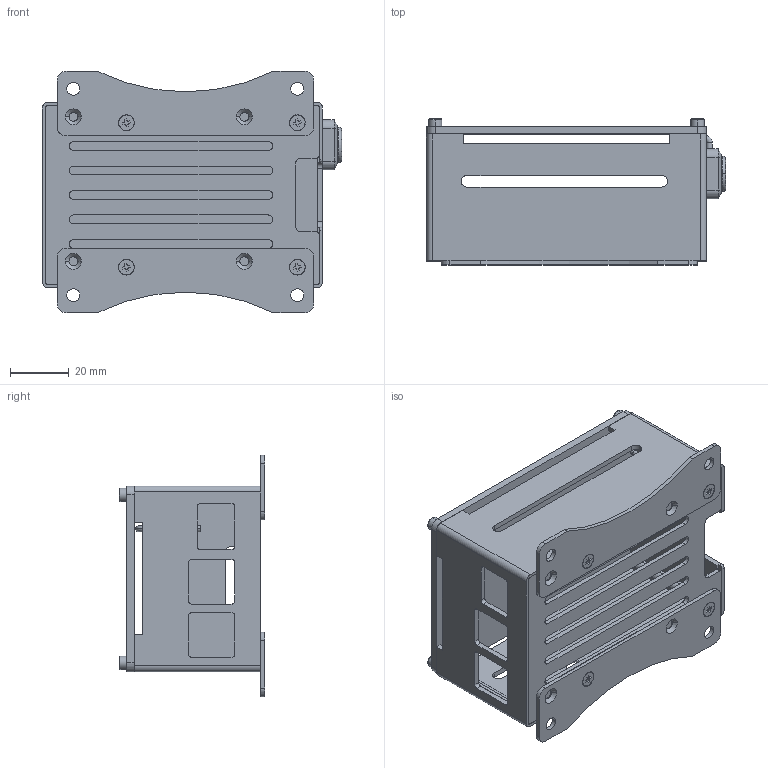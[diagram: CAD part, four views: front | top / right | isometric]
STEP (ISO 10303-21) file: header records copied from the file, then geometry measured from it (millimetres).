
FILE_DESCRIPTION (( 'STEP AP203' ), '1' );
FILE_NAME ('GPIO_Bridge.STEP', '2025-10-14T01:42:03', ( '' ), ( '' ), 'SwSTEP 2.0', 'SolidWorks 2024', '' );
FILE_SCHEMA (( 'CONFIG_CONTROL_DESIGN' ));
Length unit declared in the file: millimetre
Products named in the file (8): Case3; Case2; SFBJ2.6-6; sw1; CB2.6-5; Case1; GPIO_Bridge; GPIO Plate1
Assembly tree (14 placements, depth 2):
  GPIO_Bridge
    Case2
    Case1
    Case3
    SFBJ2.6-6  x4
    CB2.6-5  x4
    GPIO Plate1  x2
    sw1
Bounding box: 101.5 x 49.45 x 82 mm (x, y, z)
Volume: 47498.1 mm3; surface area: 59653.8 mm2
Topology: 18 solids, 18 shells, 616 faces, 1585 edges, 1014 vertices
Faces by surface type: plane 308, cylinder 226, cone 68, bspline 8, torus 6
Entity records: 14165 total; most frequent: DIRECTION 2347, CARTESIAN_POINT 2287, ORIENTED_EDGE 2210, EDGE_CURVE 1105, AXIS2_PLACEMENT_3D 811, LINE 725, VECTOR 725, VERTEX_POINT 719
